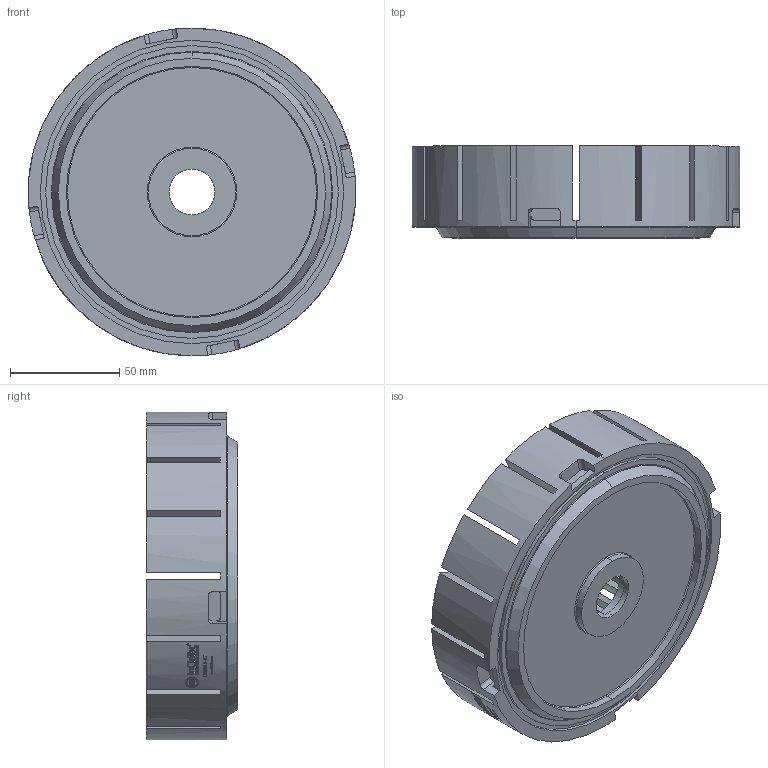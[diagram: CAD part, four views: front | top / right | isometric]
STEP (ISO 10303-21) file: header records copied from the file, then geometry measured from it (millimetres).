
FILE_DESCRIPTION (( 'STEP AP203' ), '1' );
FILE_NAME ('CR150 S-37.STEP', '2016-06-15T13:57:55', ( '' ), ( '' ), 'SwSTEP 2.0', 'SolidWorks 2016', '' );
FILE_SCHEMA (( 'CONFIG_CONTROL_DESIGN' ));
Length unit declared in the file: millimetre
Products named in the file (1): CR150 S-37
Bounding box: 150 x 42 x 150 mm (x, y, z)
Volume: 550345.1 mm3; surface area: 123999.3 mm2
Topology: 1 solids, 1 shells, 1985 faces, 5656 edges, 3769 vertices
Faces by surface type: plane 1590, cylinder 385, torus 8, cone 2
Entity records: 65423 total; most frequent: CARTESIAN_POINT 17083, ORIENTED_EDGE 11312, DIRECTION 8695, EDGE_CURVE 5656, VERTEX_POINT 3769, LINE 3557, VECTOR 3557, AXIS2_PLACEMENT_3D 2569
